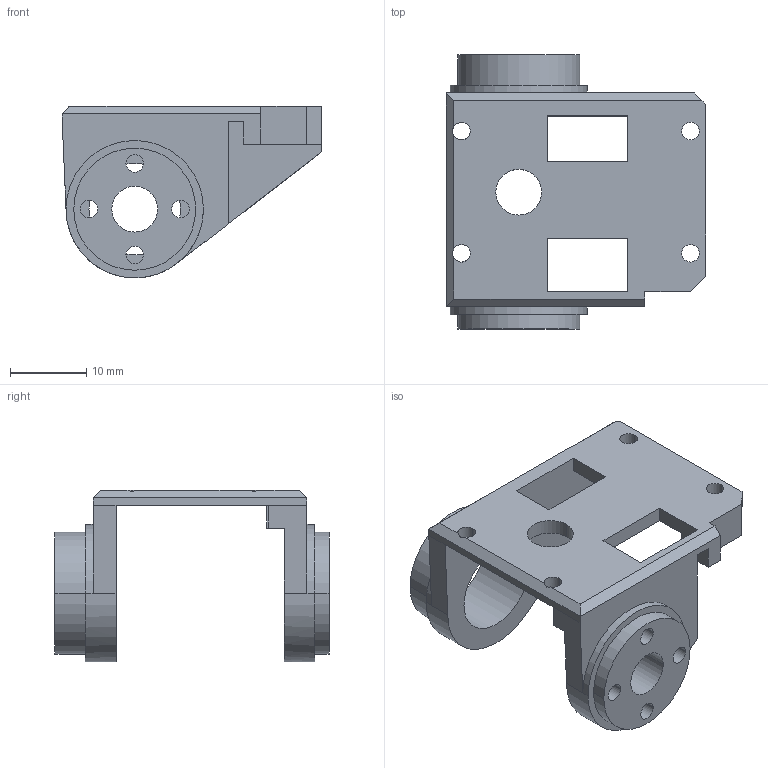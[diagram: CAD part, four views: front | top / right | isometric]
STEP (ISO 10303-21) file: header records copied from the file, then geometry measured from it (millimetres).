
FILE_DESCRIPTION (( 'STEP AP203' ), '1' );
FILE_NAME ('99-yaw_roll_motion_ぇ瑤筵幗堍雄-F.STEP', '2026-09-13T01:17:35', ( '' ), ( '' ), 'SwSTEP 2.0', 'SolidWorks 2021', '' );
FILE_SCHEMA (( 'CONFIG_CONTROL_DESIGN' ));
Length unit declared in the file: millimetre
Products named in the file (1): 99-yaw_roll_motion_ぇ瑤筵幗堍雄-F
Bounding box: 34 x 35.9 x 22.5 mm (x, y, z)
Volume: 4526.6 mm3; surface area: 4693.2 mm2
Topology: 1 solids, 1 shells, 82 faces, 228 edges, 150 vertices
Faces by surface type: plane 44, cylinder 38
Entity records: 2772 total; most frequent: CARTESIAN_POINT 473, DIRECTION 469, ORIENTED_EDGE 456, EDGE_CURVE 228, AXIS2_PLACEMENT_3D 162, VERTEX_POINT 150, LINE 145, VECTOR 145
